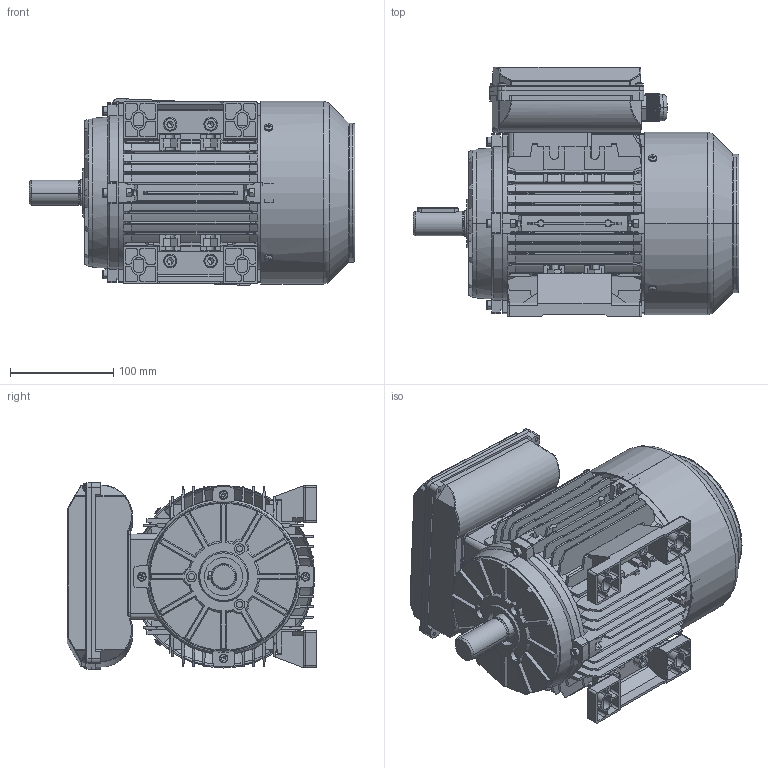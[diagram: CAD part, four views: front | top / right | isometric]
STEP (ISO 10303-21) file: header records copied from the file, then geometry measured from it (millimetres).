
FILE_DESCRIPTION (( 'STEP AP203' ), '1' );
FILE_NAME ('ML2 90S B3(臏諉盄碟).STEP', '2024-01-23T01:53:07', ( '' ), ( '' ), 'SwSTEP 2.0', 'SolidWorks 2016', '' );
FILE_SCHEMA (( 'CONFIG_CONTROL_DESIGN' ));
Length unit declared in the file: millimetre
Products named in the file (19): hexagon nuts grade c gb_GB_FASTENER_NUT_SNC1 M5-N; ML80-90铝接线盒组合II（加长）; hexagon socket head cap screws gb_GB_FASTENER_SCREWS_HSHCS M8X25-N; hexagon nuts grade c gb_GB_FASTENER_NUT_SNC1 M8-N; ML80-ML90諉盄碟裔(樓酗)(臏II); cross recessed thread forming screws gb_GB_CROSS_SCREWS_TYPE138 M4X8X6.6-N; T90S儂褲; cross recessed thread forming screws gb_GB_CROSS_SCREWS_TYPE138 M4X12-N; ML2 90S B3(臏諉盄碟); ML80-ML90諉盄碟釱(樓酗)(臏II); T90S蛌粣; 90瑞珔; plain parallel keys_GB_CONNECTING_PIECE_KEYS_CSK 8X40; TA90瑞欶; hexagon socket head cap screws gb_GB_FASTENER_SCREWS_HSHCS M5X25-N; TA90ヶ裔1; T90S菁褐; 80-100堤盄蹟杶; TA90綴裔1
Assembly tree (45 placements, depth 3):
  ML2 90S B3(臏諉盄碟)
    T90S儂褲
    T90S菁褐  x2
    T90S蛌粣
    TA90瑞欶
    TA90綴裔1
    90瑞珔
    cross recessed thread forming screws gb_GB_CROSS_SCREWS_TYPE138 M4X12-N  x4
    hexagon nuts grade c gb_GB_FASTENER_NUT_SNC1 M8-N  x4
    hexagon socket head cap screws gb_GB_FASTENER_SCREWS_HSHCS M8X25-N  x4
    plain parallel keys_GB_CONNECTING_PIECE_KEYS_CSK 8X40
    hexagon nuts grade c gb_GB_FASTENER_NUT_SNC1 M5-N  x8
    hexagon socket head cap screws gb_GB_FASTENER_SCREWS_HSHCS M5X25-N  x8
    TA90ヶ裔1
    ML80-90铝接线盒组合II（加长）
      ML80-ML90諉盄碟釱(樓酗)(臏II)
      ML80-ML90諉盄碟裔(樓酗)(臏II)
      cross recessed thread forming screws gb_GB_CROSS_SCREWS_TYPE138 M4X8X6.6-N  x4
      80-100堤盄蹟杶
Bounding box: 315 x 241 x 180.59 mm (x, y, z)
Volume: 1355963.6 mm3; surface area: 891021.4 mm2
Topology: 44 solids, 44 shells, 4177 faces, 11122 edges, 7116 vertices
Faces by surface type: plane 2572, cylinder 1078, cone 271, torus 150, sphere 80, bspline 26
Entity records: 117575 total; most frequent: CARTESIAN_POINT 28408, ORIENTED_EDGE 18842, DIRECTION 16984, EDGE_CURVE 9421, LINE 6086, VECTOR 6086, VERTEX_POINT 6066, AXIS2_PLACEMENT_3D 5449
